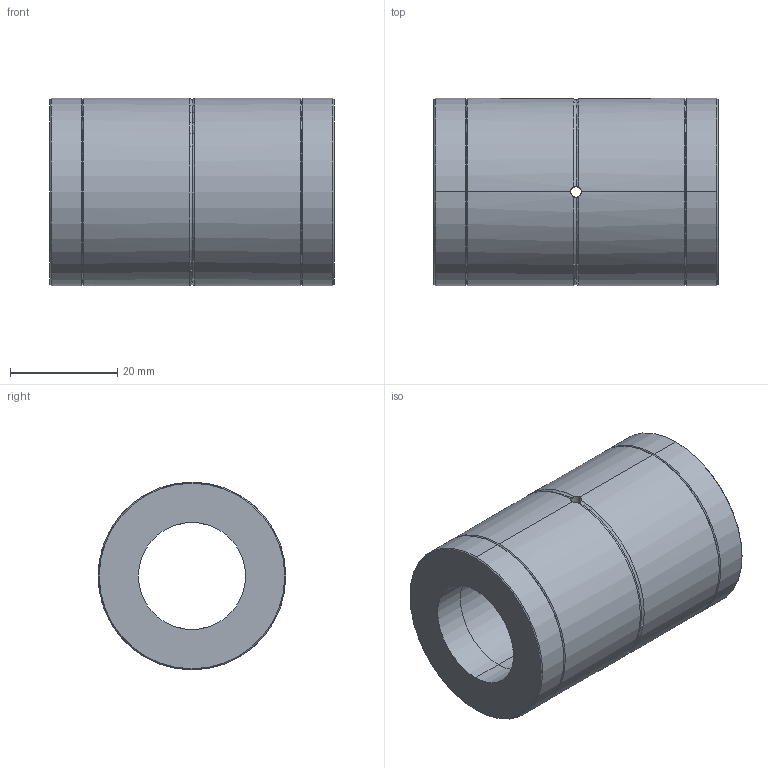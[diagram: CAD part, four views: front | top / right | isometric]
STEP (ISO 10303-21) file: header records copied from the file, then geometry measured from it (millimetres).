
FILE_DESCRIPTION (( 'STEP AP203' ), '1' );
FILE_NAME ('KLT020T2.STEP', '2023-08-11T07:22:59', ( 'Microsoft' ), ( 'Microsoft' ), 'SwSTEP 2.0', 'SolidWorks 2022', '' );
FILE_SCHEMA (( 'CONFIG_CONTROL_DESIGN' ));
Length unit declared in the file: millimetre
Products named in the file (4): 零件4^KLT020T2; KLT020T2; 零件7^KLT020T2; 零件6^KLT020T2
Assembly tree (3 placements, depth 2):
  KLT020T2
    零件4^KLT020T2
    零件6^KLT020T2
    零件7^KLT020T2
Bounding box: 53 x 35 x 35 mm (x, y, z)
Volume: 33989.5 mm3; surface area: 13208.9 mm2
Topology: 3 solids, 3 shells, 47 faces, 115 edges, 70 vertices
Faces by surface type: cylinder 20, cone 12, plane 9, torus 6
Entity records: 1994 total; most frequent: CARTESIAN_POINT 474, DIRECTION 242, ORIENTED_EDGE 230, EDGE_CURVE 115, AXIS2_PLACEMENT_3D 100, VERTEX_POINT 70, EDGE_LOOP 53, ADVANCED_FACE 47
